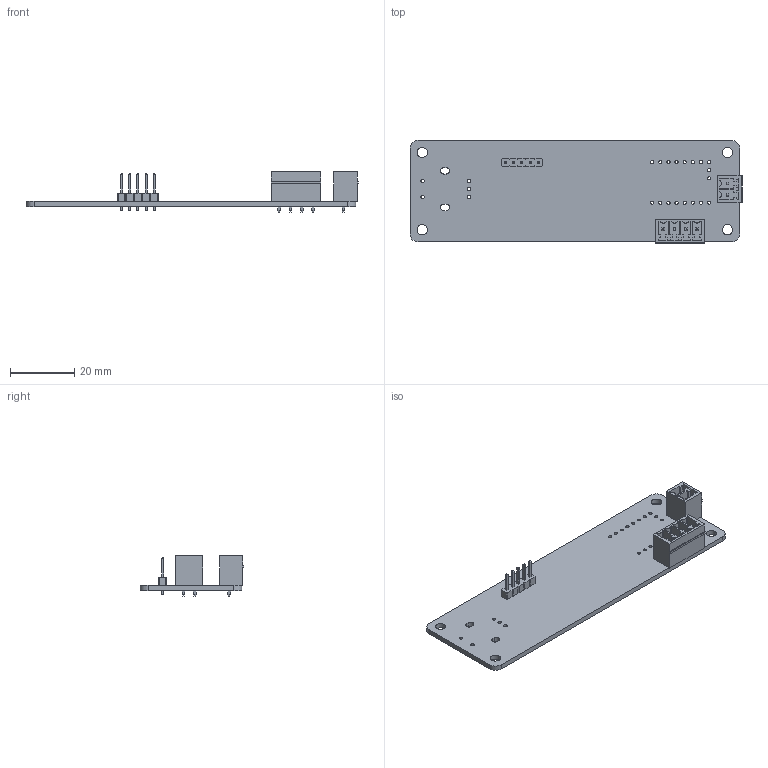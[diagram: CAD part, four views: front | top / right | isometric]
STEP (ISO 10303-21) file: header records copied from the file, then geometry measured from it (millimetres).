
FILE_DESCRIPTION(('KiCad electronic assembly'),'2;1');
FILE_NAME('turntable_driver.step','2025-02-14T12:32:29',('Pcbnew'),( 'Kicad'),'Open CASCADE STEP processor 7.7','KiCad to STEP converter' ,'Unknown');
FILE_SCHEMA(('AUTOMOTIVE_DESIGN { 1 0 10303 214 1 1 1 1 }'));
Length unit declared in the file: millimetre
Products named in the file (8): turntable_driver 1; PhoenixContact_MCV_1,5_2-G-3.5_1x02_P3.50mm_Vertical; MCV_01x02_G_3_5mm; PhoenixContact_MCV_1,5_4-G-3.5_1x04_P3.50mm_Vertical; MCV_01x04_G_3_5mm; PinHeader_1x05_P2.54mm_Vertical; PinHeader_1x05_P254mm_Vertical; turntable_driver_PCB
Assembly tree (7 placements, depth 3):
  turntable_driver 1
    PhoenixContact_MCV_1,5_2-G-3.5_1x02_P3.50mm_Vertical
      MCV_01x02_G_3_5mm
    PhoenixContact_MCV_1,5_4-G-3.5_1x04_P3.50mm_Vertical
      MCV_01x04_G_3_5mm
    PinHeader_1x05_P2.54mm_Vertical
      PinHeader_1x05_P254mm_Vertical
    turntable_driver_PCB
Bounding box: 103.6 x 32.32 x 12.6 mm (x, y, z)
Volume: 6212 mm3; surface area: 9385.7 mm2
Topology: 4 solids, 4 shells, 397 faces, 995 edges, 634 vertices
Faces by surface type: plane 346, cylinder 51
Full cylindrical faces by diameter (mm): 1 x22, 1.1 x5, 1.2 x6, 3.2 x4
Entity records: 14283 total; most frequent: CARTESIAN_POINT 2034, ORIENTED_EDGE 1990, DIRECTION 1907, EDGE_CURVE 995, LINE 893, VECTOR 893, VERTEX_POINT 634, AXIS2_PLACEMENT_3D 507
